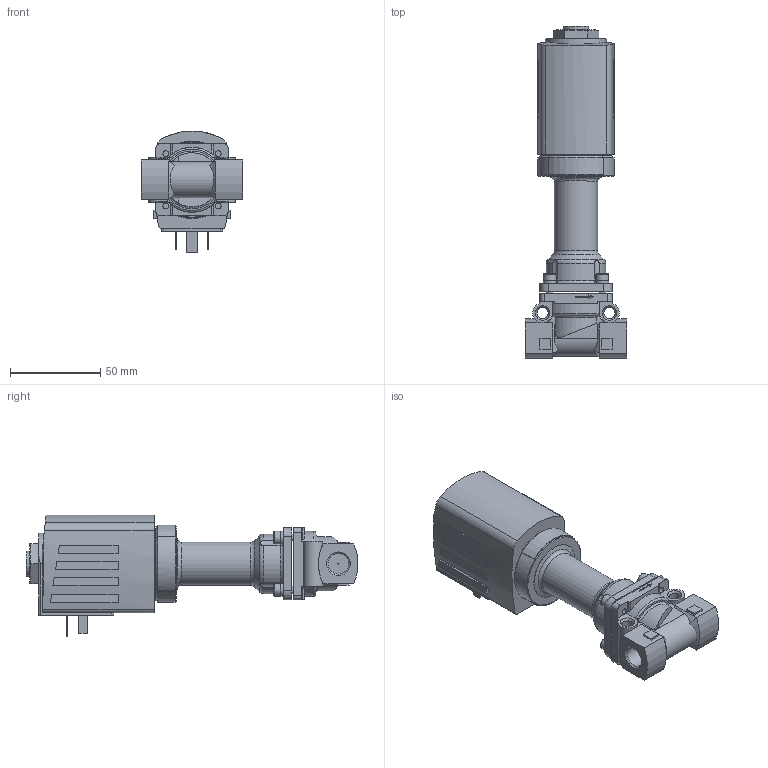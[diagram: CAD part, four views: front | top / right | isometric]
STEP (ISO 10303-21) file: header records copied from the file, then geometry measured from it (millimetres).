
FILE_DESCRIPTION(/* description */ ('STEP AP214'),/* implementation_level */ '2;1');
FILE_NAME(/* name */ '6026-352561-pluger_valve_2_2_Wege_direct-acting',/* time_stamp */ '2024-03-04T12:14:42+01:00',/* author */ ('License CC BY-ND 4.0'),/* organization */ ('CADENAS'),/* preprocessor_version */ 'ST-DEVELOPER v19.3',/* originating_system */ 'PARTsolutions',/* authorisation */ ' ');
FILE_SCHEMA (('AUTOMOTIVE_DESIGN {1 0 10303 214 3 1 1}'));
Length unit declared in the file: millimetre
Products named in the file (4): 6026-352561-pluger valve 2/2 Wege direct-acting; 6026ms centerpiece 0; 6026g-G 1/4MS-pluger valve_body; AC10ex-42SG=k-Plan-Coil
Assembly tree (3 placements, depth 2):
  6026-352561-pluger valve 2/2 Wege direct-acting
    6026ms centerpiece 0
    6026g-G 1/4MS-pluger valve_body
    AC10ex-42SG=k-Plan-Coil
Bounding box: 56 x 183.93 x 67.5 mm (x, y, z)
Volume: 236103.9 mm3; surface area: 40123.1 mm2
Topology: 3 solids, 3 shells, 308 faces, 760 edges, 498 vertices
Faces by surface type: plane 171, cylinder 92, cone 30, torus 15
Full cylindrical faces by diameter (mm): 0.4 x1, 2.013 x1, 3.242 x4, 4 x4, 6.3 x2, 7 x4, 7.1 x4, 7.8 x4, 11.445 x2, 14 x1, 24 x1, 30.3 x1, 32 x1, 42.3 x1
Entity records: 10254 total; most frequent: CARTESIAN_POINT 1759, DIRECTION 1498, ORIENTED_EDGE 1392, EDGE_CURVE 696, AXIS2_PLACEMENT_3D 552, VERTEX_POINT 486, EDGE_LOOP 414, FACE_BOUND 414
